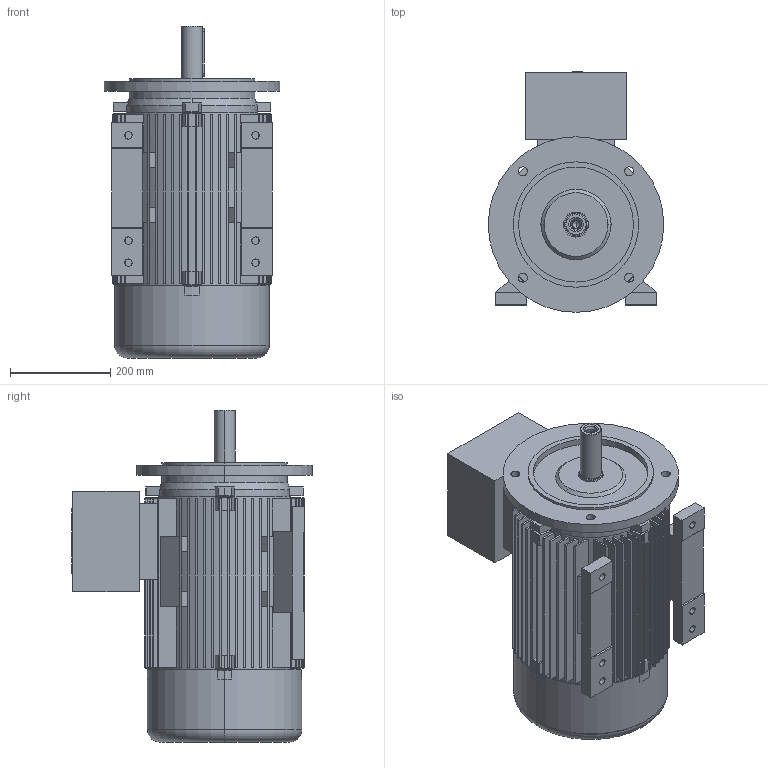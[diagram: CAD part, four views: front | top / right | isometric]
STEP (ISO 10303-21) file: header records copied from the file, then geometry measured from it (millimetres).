
FILE_DESCRIPTION (( 'STEP AP203' ), '1' );
FILE_NAME ('20.18422_C 7AT 160M&L B35 Exd STANDK.STEP', '2018-05-21T12:36:55', ( '' ), ( '' ), 'SwSTEP 2.0', 'SolidWorks 2017', '' );
FILE_SCHEMA (( 'CONFIG_CONTROL_DESIGN' ));
Length unit declared in the file: millimetre
Products named in the file (1): 20.18422_C 7AT 160M&L B35 Exd STANDK
Bounding box: 350 x 480 x 662 mm (x, y, z)
Volume: 17427345.5 mm3; surface area: 2815962.2 mm2
Topology: 8 solids, 8 shells, 751 faces, 2036 edges, 1343 vertices
Faces by surface type: plane 527, cylinder 181, cone 30, bspline 9, torus 4
Entity records: 23962 total; most frequent: CARTESIAN_POINT 4450, DIRECTION 4106, ORIENTED_EDGE 4052, EDGE_CURVE 2026, AXIS2_PLACEMENT_3D 1375, LINE 1356, VECTOR 1356, VERTEX_POINT 1343
